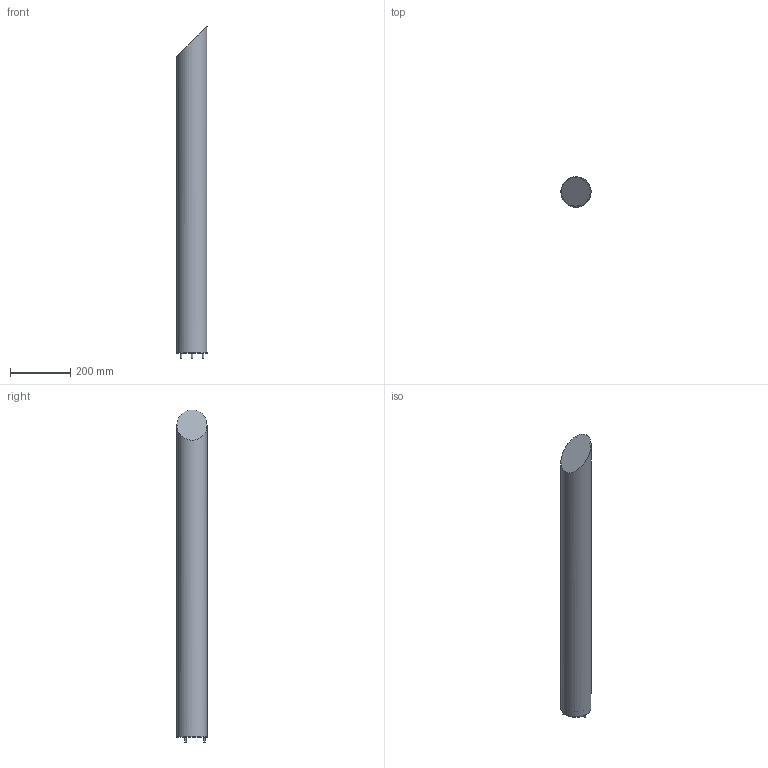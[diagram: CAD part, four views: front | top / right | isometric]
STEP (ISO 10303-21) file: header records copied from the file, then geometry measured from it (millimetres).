
FILE_DESCRIPTION(/* description */ (''),/* implementation_level */ '2;1');
FILE_NAME(/* name */ 'C:/Users/LukasGröber/GMS Cloud/Groeber Mannheim Lichtwerke - Dokumente/Marketing/Produkte/3D Daten/Light Star/Light Star 110.step',/* time_stamp */ '2022-07-06T12:50:15+02:00',/* author */ (''),/* organization */ (''),/* preprocessor_version */ 'ST-DEVELOPER v18.1',/* originating_system */ 'Autodesk Translation Framework v10.10.0.1391',/* authorisation */ '');
FILE_SCHEMA (('AUTOMOTIVE_DESIGN { 1 0 10303 214 3 1 1 }'));
Length unit declared in the file: millimetre
Products named in the file (3): Light Star 110 (Modell); Fuß Light Star/Stick Modell; Rohr Light Star 110
Assembly tree (2 placements, depth 2):
  Light Star 110 (Modell)
    Fuß Light Star/Stick Modell
    Rohr Light Star 110
Bounding box: 100 x 100 x 1102 mm (x, y, z)
Volume: 1151329.1 mm3; surface area: 674905.7 mm2
Topology: 2 solids, 2 shells, 18 faces, 26 edges, 17 vertices
Faces by surface type: plane 10, cylinder 7, cone 1
Full cylindrical faces by diameter (mm): 5 x3, 94 x2, 100 x2
Entity records: 498 total; most frequent: DIRECTION 89, CARTESIAN_POINT 66, ORIENTED_EDGE 52, AXIS2_PLACEMENT_3D 40, EDGE_CURVE 26, EDGE_LOOP 23, FACE_OUTER_BOUND 18, ADVANCED_FACE 18
